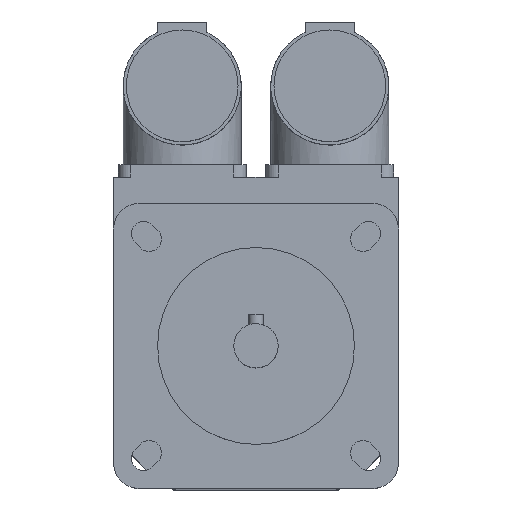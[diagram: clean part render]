
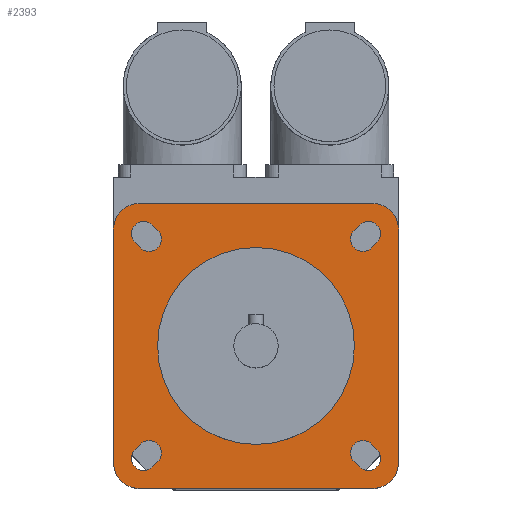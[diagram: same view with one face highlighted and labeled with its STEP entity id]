
A CAD part, top view. The second image highlights one B-rep face of the part: STEP entity #2393.
In plain terms, the highlighted planar face has unit normal (0, 0, 1).
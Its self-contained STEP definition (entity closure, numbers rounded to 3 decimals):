
#32=FACE_BOUND('',#432,.T.);
#33=FACE_BOUND('',#433,.T.);
#34=FACE_BOUND('',#434,.T.);
#35=FACE_BOUND('',#435,.T.);
#36=FACE_BOUND('',#436,.T.);
#51=CIRCLE('',#2486,20.);
#88=CIRCLE('',#2550,2.5);
#92=CIRCLE('',#2557,2.5);
#93=CIRCLE('',#2560,2.5);
#94=CIRCLE('',#2563,2.5);
#104=CIRCLE('',#2578,2.5);
#105=CIRCLE('',#2581,2.5);
#106=CIRCLE('',#2584,2.5);
#107=CIRCLE('',#2587,2.5);
#108=CIRCLE('',#2589,5.5);
#109=CIRCLE('',#2591,5.5);
#110=CIRCLE('',#2593,5.5);
#111=CIRCLE('',#2595,5.5);
#290=FACE_OUTER_BOUND('',#431,.T.);
#431=EDGE_LOOP('',(#1839,#1840,#1841,#1842,#1843,#1844,#1845,#1846));
#432=EDGE_LOOP('',(#1847));
#433=EDGE_LOOP('',(#1848,#1849,#1850,#1851));
#434=EDGE_LOOP('',(#1852,#1853,#1854,#1855));
#435=EDGE_LOOP('',(#1856,#1857,#1858,#1859));
#436=EDGE_LOOP('',(#1860,#1861,#1862,#1863));
#578=LINE('',#3719,#799);
#586=LINE('',#3743,#807);
#590=LINE('',#3753,#811);
#594=LINE('',#3763,#815);
#610=LINE('',#3814,#831);
#612=LINE('',#3820,#833);
#614=LINE('',#3826,#835);
#616=LINE('',#3832,#837);
#625=LINE('',#3860,#846);
#626=LINE('',#3861,#847);
#627=LINE('',#3862,#848);
#628=LINE('',#3863,#849);
#799=VECTOR('',#2944,1.5);
#807=VECTOR('',#2966,1.5);
#811=VECTOR('',#2976,1.5);
#815=VECTOR('',#2986,1.5);
#831=VECTOR('',#3032,1.5);
#833=VECTOR('',#3040,1.5);
#835=VECTOR('',#3048,1.5);
#837=VECTOR('',#3056,1.5);
#846=VECTOR('',#3087,47.);
#847=VECTOR('',#3088,47.);
#848=VECTOR('',#3089,47.);
#849=VECTOR('',#3090,47.);
#974=VERTEX_POINT('',#3540);
#1039=VERTEX_POINT('',#3716);
#1040=VERTEX_POINT('',#3718);
#1041=VERTEX_POINT('',#3722);
#1048=VERTEX_POINT('',#3740);
#1049=VERTEX_POINT('',#3742);
#1050=VERTEX_POINT('',#3746);
#1051=VERTEX_POINT('',#3750);
#1052=VERTEX_POINT('',#3752);
#1053=VERTEX_POINT('',#3756);
#1054=VERTEX_POINT('',#3760);
#1055=VERTEX_POINT('',#3762);
#1056=VERTEX_POINT('',#3766);
#1075=VERTEX_POINT('',#3812);
#1076=VERTEX_POINT('',#3818);
#1077=VERTEX_POINT('',#3824);
#1078=VERTEX_POINT('',#3830);
#1079=VERTEX_POINT('',#3836);
#1080=VERTEX_POINT('',#3838);
#1081=VERTEX_POINT('',#3842);
#1082=VERTEX_POINT('',#3844);
#1083=VERTEX_POINT('',#3848);
#1084=VERTEX_POINT('',#3850);
#1085=VERTEX_POINT('',#3854);
#1086=VERTEX_POINT('',#3856);
#1215=EDGE_CURVE('',#974,#974,#51,.T.);
#1301=EDGE_CURVE('',#1040,#1039,#578,.T.);
#1304=EDGE_CURVE('',#1039,#1041,#88,.T.);
#1313=EDGE_CURVE('',#1049,#1048,#586,.T.);
#1316=EDGE_CURVE('',#1048,#1050,#92,.T.);
#1318=EDGE_CURVE('',#1052,#1051,#590,.T.);
#1321=EDGE_CURVE('',#1051,#1053,#93,.T.);
#1323=EDGE_CURVE('',#1055,#1054,#594,.T.);
#1326=EDGE_CURVE('',#1054,#1056,#94,.T.);
#1349=EDGE_CURVE('',#1053,#1075,#610,.T.);
#1350=EDGE_CURVE('',#1075,#1052,#104,.T.);
#1352=EDGE_CURVE('',#1050,#1076,#612,.T.);
#1353=EDGE_CURVE('',#1076,#1049,#105,.T.);
#1355=EDGE_CURVE('',#1056,#1077,#614,.T.);
#1356=EDGE_CURVE('',#1077,#1055,#106,.T.);
#1358=EDGE_CURVE('',#1041,#1078,#616,.T.);
#1359=EDGE_CURVE('',#1078,#1040,#107,.T.);
#1361=EDGE_CURVE('',#1080,#1079,#108,.T.);
#1364=EDGE_CURVE('',#1082,#1081,#109,.T.);
#1367=EDGE_CURVE('',#1084,#1083,#110,.T.);
#1370=EDGE_CURVE('',#1086,#1085,#111,.T.);
#1372=EDGE_CURVE('',#1079,#1086,#625,.T.);
#1373=EDGE_CURVE('',#1085,#1084,#626,.T.);
#1374=EDGE_CURVE('',#1083,#1082,#627,.T.);
#1375=EDGE_CURVE('',#1081,#1080,#628,.T.);
#1839=ORIENTED_EDGE('',*,*,#1372,.T.);
#1840=ORIENTED_EDGE('',*,*,#1370,.T.);
#1841=ORIENTED_EDGE('',*,*,#1373,.T.);
#1842=ORIENTED_EDGE('',*,*,#1367,.T.);
#1843=ORIENTED_EDGE('',*,*,#1374,.T.);
#1844=ORIENTED_EDGE('',*,*,#1364,.T.);
#1845=ORIENTED_EDGE('',*,*,#1375,.T.);
#1846=ORIENTED_EDGE('',*,*,#1361,.T.);
#1847=ORIENTED_EDGE('',*,*,#1215,.T.);
#1848=ORIENTED_EDGE('',*,*,#1349,.T.);
#1849=ORIENTED_EDGE('',*,*,#1350,.T.);
#1850=ORIENTED_EDGE('',*,*,#1318,.T.);
#1851=ORIENTED_EDGE('',*,*,#1321,.T.);
#1852=ORIENTED_EDGE('',*,*,#1352,.T.);
#1853=ORIENTED_EDGE('',*,*,#1353,.T.);
#1854=ORIENTED_EDGE('',*,*,#1313,.T.);
#1855=ORIENTED_EDGE('',*,*,#1316,.T.);
#1856=ORIENTED_EDGE('',*,*,#1355,.T.);
#1857=ORIENTED_EDGE('',*,*,#1356,.T.);
#1858=ORIENTED_EDGE('',*,*,#1323,.T.);
#1859=ORIENTED_EDGE('',*,*,#1326,.T.);
#1860=ORIENTED_EDGE('',*,*,#1358,.T.);
#1861=ORIENTED_EDGE('',*,*,#1359,.T.);
#1862=ORIENTED_EDGE('',*,*,#1301,.T.);
#1863=ORIENTED_EDGE('',*,*,#1304,.T.);
#2297=PLANE('',#2596);
#2393=ADVANCED_FACE('',(#290,#32,#33,#34,#35,#36),#2297,.T.);
#2486=AXIS2_PLACEMENT_3D('',#3541,#2769,#2770);
#2550=AXIS2_PLACEMENT_3D('',#3724,#2949,#2950);
#2557=AXIS2_PLACEMENT_3D('',#3748,#2971,#2972);
#2560=AXIS2_PLACEMENT_3D('',#3758,#2981,#2982);
#2563=AXIS2_PLACEMENT_3D('',#3768,#2991,#2992);
#2578=AXIS2_PLACEMENT_3D('',#3816,#3035,#3036);
#2581=AXIS2_PLACEMENT_3D('',#3822,#3043,#3044);
#2584=AXIS2_PLACEMENT_3D('',#3828,#3051,#3052);
#2587=AXIS2_PLACEMENT_3D('',#3834,#3059,#3060);
#2589=AXIS2_PLACEMENT_3D('',#3839,#3064,#3065);
#2591=AXIS2_PLACEMENT_3D('',#3845,#3070,#3071);
#2593=AXIS2_PLACEMENT_3D('',#3851,#3076,#3077);
#2595=AXIS2_PLACEMENT_3D('',#3857,#3082,#3083);
#2596=AXIS2_PLACEMENT_3D('',#3859,#3085,#3086);
#2769=DIRECTION('center_axis',(0.,0.,-1.));
#2770=DIRECTION('ref_axis',(-1.,0.,0.));
#2944=DIRECTION('',(-0.707,-0.707,0.));
#2949=DIRECTION('center_axis',(0.,0.,-1.));
#2950=DIRECTION('ref_axis',(0.707,-0.707,0.));
#2966=DIRECTION('',(-0.707,0.707,0.));
#2971=DIRECTION('center_axis',(0.,0.,-1.));
#2972=DIRECTION('ref_axis',(-0.707,-0.707,0.));
#2976=DIRECTION('',(-0.707,-0.707,0.));
#2981=DIRECTION('center_axis',(0.,0.,-1.));
#2982=DIRECTION('ref_axis',(0.707,-0.707,0.));
#2986=DIRECTION('',(-0.707,0.707,0.));
#2991=DIRECTION('center_axis',(0.,0.,-1.));
#2992=DIRECTION('ref_axis',(-0.707,-0.707,0.));
#3032=DIRECTION('',(0.707,0.707,0.));
#3035=DIRECTION('center_axis',(0.,0.,-1.));
#3036=DIRECTION('ref_axis',(-0.707,0.707,0.));
#3040=DIRECTION('',(0.707,-0.707,0.));
#3043=DIRECTION('center_axis',(0.,0.,-1.));
#3044=DIRECTION('ref_axis',(0.707,0.707,0.));
#3048=DIRECTION('',(0.707,-0.707,0.));
#3051=DIRECTION('center_axis',(0.,0.,-1.));
#3052=DIRECTION('ref_axis',(0.707,0.707,0.));
#3056=DIRECTION('',(0.707,0.707,0.));
#3059=DIRECTION('center_axis',(0.,0.,-1.));
#3060=DIRECTION('ref_axis',(-0.707,0.707,0.));
#3064=DIRECTION('center_axis',(0.,0.,1.));
#3065=DIRECTION('ref_axis',(1.,0.,0.));
#3070=DIRECTION('center_axis',(0.,0.,1.));
#3071=DIRECTION('ref_axis',(0.,-1.,0.));
#3076=DIRECTION('center_axis',(0.,0.,1.));
#3077=DIRECTION('ref_axis',(-1.,0.,0.));
#3082=DIRECTION('center_axis',(0.,0.,1.));
#3083=DIRECTION('ref_axis',(0.,1.,0.));
#3085=DIRECTION('center_axis',(0.,0.,1.));
#3086=DIRECTION('ref_axis',(1.,0.,0.));
#3087=DIRECTION('',(-1.,0.,0.));
#3088=DIRECTION('',(0.,-1.,0.));
#3089=DIRECTION('',(1.,0.,0.));
#3090=DIRECTION('',(0.,1.,0.));
#3540=CARTESIAN_POINT('',(20.,0.,116.5));
#3541=CARTESIAN_POINT('Origin',(0.,0.,116.5));
#3716=CARTESIAN_POINT('',(-21.036,-24.572,116.5));
#3718=CARTESIAN_POINT('',(-19.976,-23.511,116.5));
#3719=CARTESIAN_POINT('',(-9.634,-13.17,116.5));
#3722=CARTESIAN_POINT('',(-24.572,-21.036,116.5));
#3724=CARTESIAN_POINT('Origin',(-22.804,-22.804,116.5));
#3740=CARTESIAN_POINT('',(-24.572,21.036,116.5));
#3742=CARTESIAN_POINT('',(-23.511,19.976,116.5));
#3743=CARTESIAN_POINT('',(-13.17,9.634,116.5));
#3746=CARTESIAN_POINT('',(-21.036,24.572,116.5));
#3748=CARTESIAN_POINT('Origin',(-22.804,22.804,116.5));
#3750=CARTESIAN_POINT('',(23.511,19.976,116.5));
#3752=CARTESIAN_POINT('',(24.572,21.036,116.5));
#3753=CARTESIAN_POINT('',(12.64,9.104,116.5));
#3756=CARTESIAN_POINT('',(19.976,23.511,116.5));
#3758=CARTESIAN_POINT('Origin',(21.744,21.744,116.5));
#3760=CARTESIAN_POINT('',(19.976,-23.511,116.5));
#3762=CARTESIAN_POINT('',(21.036,-24.572,116.5));
#3763=CARTESIAN_POINT('',(9.104,-12.64,116.5));
#3766=CARTESIAN_POINT('',(23.511,-19.976,116.5));
#3768=CARTESIAN_POINT('Origin',(21.744,-21.744,116.5));
#3812=CARTESIAN_POINT('',(21.036,24.572,116.5));
#3814=CARTESIAN_POINT('',(9.634,13.17,116.5));
#3816=CARTESIAN_POINT('Origin',(22.804,22.804,116.5));
#3818=CARTESIAN_POINT('',(-19.976,23.511,116.5));
#3820=CARTESIAN_POINT('',(-9.104,12.64,116.5));
#3822=CARTESIAN_POINT('Origin',(-21.744,21.744,116.5));
#3824=CARTESIAN_POINT('',(24.572,-21.036,116.5));
#3826=CARTESIAN_POINT('',(13.17,-9.634,116.5));
#3828=CARTESIAN_POINT('Origin',(22.804,-22.804,116.5));
#3830=CARTESIAN_POINT('',(-23.511,-19.976,116.5));
#3832=CARTESIAN_POINT('',(-12.64,-9.104,116.5));
#3834=CARTESIAN_POINT('Origin',(-21.744,-21.744,116.5));
#3836=CARTESIAN_POINT('',(23.5,29.,116.5));
#3838=CARTESIAN_POINT('',(29.,23.5,116.5));
#3839=CARTESIAN_POINT('Origin',(23.5,23.5,116.5));
#3842=CARTESIAN_POINT('',(29.,-23.5,116.5));
#3844=CARTESIAN_POINT('',(23.5,-29.,116.5));
#3845=CARTESIAN_POINT('Origin',(23.5,-23.5,116.5));
#3848=CARTESIAN_POINT('',(-23.5,-29.,116.5));
#3850=CARTESIAN_POINT('',(-29.,-23.5,116.5));
#3851=CARTESIAN_POINT('Origin',(-23.5,-23.5,116.5));
#3854=CARTESIAN_POINT('',(-29.,23.5,116.5));
#3856=CARTESIAN_POINT('',(-23.5,29.,116.5));
#3857=CARTESIAN_POINT('Origin',(-23.5,23.5,116.5));
#3859=CARTESIAN_POINT('Origin',(0.,0.,
116.5));
#3860=CARTESIAN_POINT('',(23.5,29.,116.5));
#3861=CARTESIAN_POINT('',(-29.,23.5,116.5));
#3862=CARTESIAN_POINT('',(-23.5,-29.,116.5));
#3863=CARTESIAN_POINT('',(29.,-23.5,116.5));
